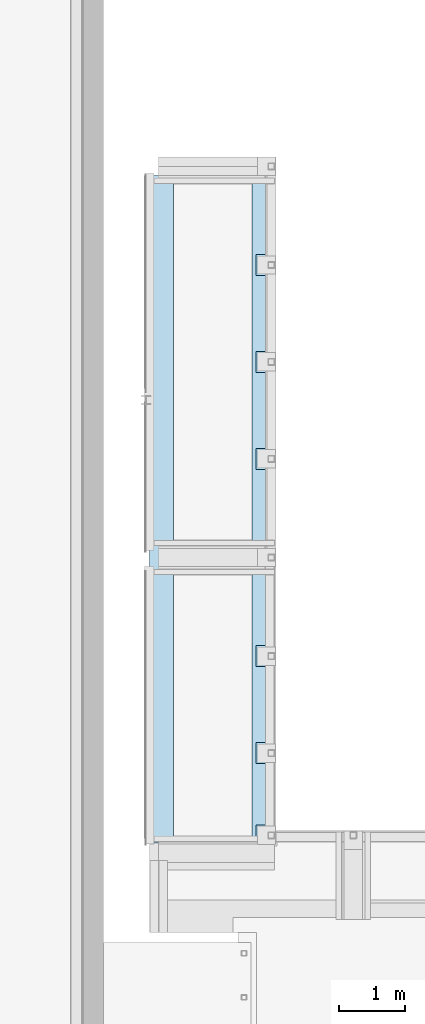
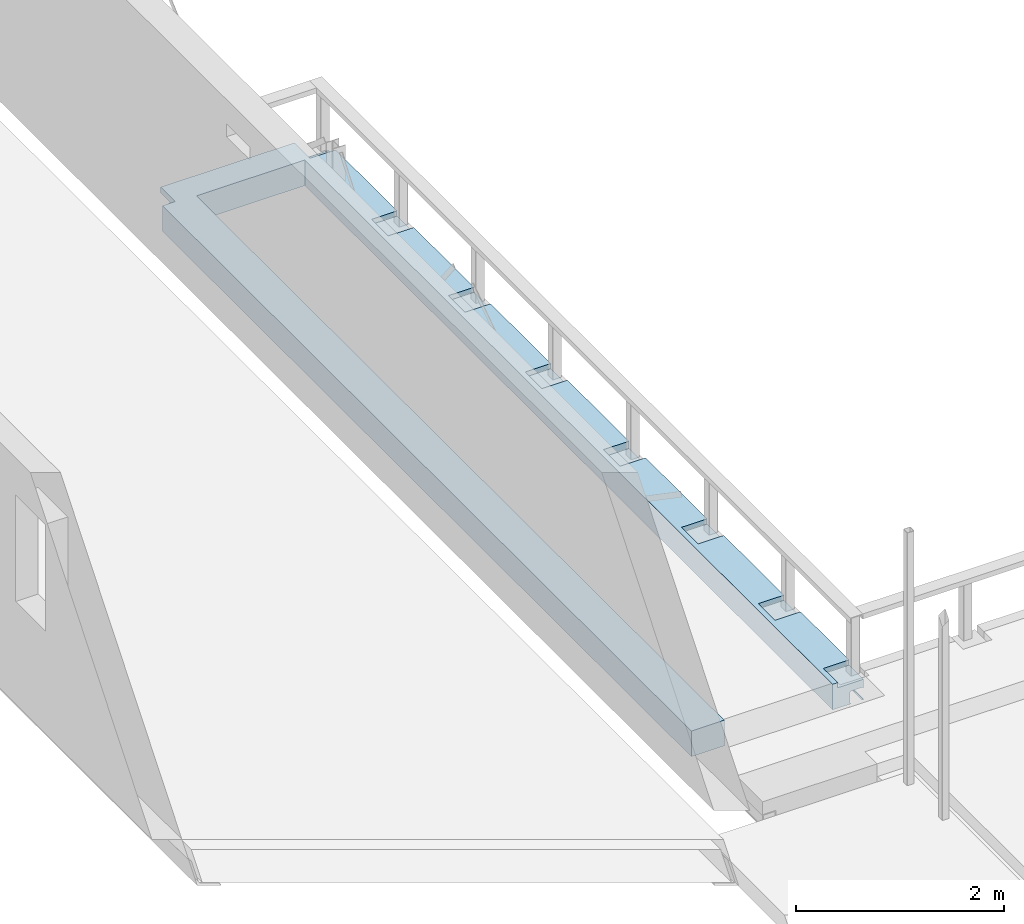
# One storey, part 58 of 68: 1 slab.
"""IFC2X3 building model written with IfcOpenShell, lengths in millimetres."""

from ifc_helpers import new_model, entity, si_unit, converted_unit, derived_unit, direction, frame, origin, place, context, subcontext, project, spatial, faceted_brep, material, type_object, element, save


model = new_model("IFC2X3")

# Units and contexts
model_context = context("Model", 3, precision=0.01, world=origin(), true_north=direction((6.12303176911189e-17, 1.0)))
body_context = subcontext(model_context, "Body", "Model", "MODEL_VIEW")
ifc_project = project(units=[si_unit("LENGTHUNIT", "METRE", prefix="MILLI"), si_unit("AREAUNIT", "SQUARE_METRE", prefix="MILLI"), si_unit("VOLUMEUNIT", "CUBIC_METRE"), converted_unit("PLANEANGLEUNIT", "DEGREE", entity("IfcRatioMeasure", 0.0174532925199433), si_unit("PLANEANGLEUNIT", "RADIAN"), dimensions=[0, 0, 0, 0, 0, 0, 0]), si_unit("MASSUNIT", "GRAM", prefix="KILO"), derived_unit("MASSDENSITYUNIT", [(si_unit("MASSUNIT", "GRAM", prefix="KILO"), 1), (si_unit("LENGTHUNIT", "METRE"), -3)]), derived_unit("MOMENTOFINERTIAUNIT", [(si_unit("LENGTHUNIT", "METRE"), 4)]), si_unit("TIMEUNIT", "SECOND"), si_unit("FREQUENCYUNIT", "HERTZ"), si_unit("THERMODYNAMICTEMPERATUREUNIT", "DEGREE_CELSIUS"), derived_unit("THERMALTRANSMITTANCEUNIT", [(si_unit("MASSUNIT", "GRAM", prefix="KILO"), 1), (si_unit("THERMODYNAMICTEMPERATUREUNIT", "KELVIN"), -1), (si_unit("TIMEUNIT", "SECOND"), -3)]), derived_unit("VOLUMETRICFLOWRATEUNIT", [(si_unit("LENGTHUNIT", "METRE"), 3), (si_unit("TIMEUNIT", "SECOND"), -1)]), si_unit("ELECTRICCURRENTUNIT", "AMPERE"), si_unit("ELECTRICVOLTAGEUNIT", "VOLT"), si_unit("POWERUNIT", "WATT"), si_unit("FORCEUNIT", "NEWTON", prefix="KILO"), si_unit("ILLUMINANCEUNIT", "LUX"), si_unit("LUMINOUSFLUXUNIT", "LUMEN"), si_unit("LUMINOUSINTENSITYUNIT", "CANDELA"), derived_unit("USERDEFINED", [(si_unit("MASSUNIT", "GRAM", prefix="KILO"), -1), (si_unit("LENGTHUNIT", "METRE"), -2), (si_unit("TIMEUNIT", "SECOND"), 3), (si_unit("LUMINOUSFLUXUNIT", "LUMEN"), 1)]), derived_unit("LINEARVELOCITYUNIT", [(si_unit("LENGTHUNIT", "METRE"), 1), (si_unit("TIMEUNIT", "SECOND"), -1)]), si_unit("PRESSUREUNIT", "PASCAL"), derived_unit("USERDEFINED", [(si_unit("LENGTHUNIT", "METRE"), -2), (si_unit("MASSUNIT", "GRAM", prefix="KILO"), 1), (si_unit("TIMEUNIT", "SECOND"), -2)]), derived_unit("LINEARFORCEUNIT", [(si_unit("MASSUNIT", "GRAM", prefix="KILO"), 1), (si_unit("LENGTHUNIT", "METRE"), 1), (si_unit("TIMEUNIT", "SECOND"), -2), (si_unit("LENGTHUNIT", "METRE"), -1)]), derived_unit("PLANARFORCEUNIT", [(si_unit("MASSUNIT", "GRAM", prefix="KILO"), 1), (si_unit("LENGTHUNIT", "METRE"), 1), (si_unit("TIMEUNIT", "SECOND"), -2), (si_unit("LENGTHUNIT", "METRE"), -2)])], contexts=[model_context])

# Site, building, storey
site_placement = place(None, origin())
site = spatial("IfcSite", under=ifc_project, at=site_placement, Name="Theater aan de Parade", CompositionType="ELEMENT")
building_placement = place(site_placement, origin())
building = spatial("IfcBuilding", under=site, at=building_placement, Name="Theater aan de Parade", CompositionType="ELEMENT")
storey_placement = place(building_placement, frame((0.0, 0.0, 8750.0)))
storey = spatial("IfcBuildingStorey", under=building, at=storey_placement, Name="02 tweede verdieping", CompositionType="ELEMENT", Elevation=8750.0)

# Slab
ifc_material = material(Name="00_PBT_MAT_beton t.p.g._C30/37")
slab_type = type_object("IfcSlabType", Name="Floor:28_PBT_FL_beton t.p.g._d=300_rand staalplaat-betonvloer_C30/37", PredefinedType="FLOOR")
slab_placement = place(storey_placement, origin())
element("IfcSlab", 1, at=slab_placement, inside=storey, type_object=slab_type, material=ifc_material, Name="Floor:28_PBT_FL_beton t.p.g._d=300_rand staalplaat-betonvloer_C30/37", ObjectType="Floor:28_PBT_FL_beton t.p.g._d=300_rand staalplaat-betonvloer_C30/37", PredefinedType="FLOOR", context=body_context, shape_type="Brep", body=[
    faceted_brep([(17960.8570032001, 19228.2922985, -60.0), (17675.8570032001, 19228.2922985, -60.0), (17675.8570032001, 19228.2922985, 0.0), (17618.8570032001, 19228.2922985, 0.0), (17618.8570032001, 19228.2922985, -300.0), (17825.8570032, 19228.2922985, -300.0), (17823.4284504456, 19228.2922985, -298.994060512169), (17820.5537023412, 19228.2922985, -297.803300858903), (17817.9020519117, 19228.2922985, -296.704951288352), (17815.2504014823, 19228.2922985, -295.60660171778), (17814.1520519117, 19228.2922985, -292.954951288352), (17813.0537023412, 19228.2922985, -290.303300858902), (17811.8629426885, 19228.2922985, -287.428552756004), (17810.8570032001, 19228.2922985, -285.0), (17810.8570032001, 19228.2922985, -165.0), (17811.8629426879, 19228.2922985, -162.571447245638), (17812.8688821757, 19228.2922985, -160.142894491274), (17814.059641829, 19228.2922985, -157.268146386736), (17815.2504014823, 19228.2922985, -154.393398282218), (17817.9020519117, 19228.2922985, -153.295048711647), (17820.5537023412, 19228.2922985, -152.196699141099), (17823.2053527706, 19228.2922985, -151.098349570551), (17825.8570032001, 19228.2922985, -150.0), (17945.8570032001, 19228.2922985, -150.0), (17948.2855559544, 19228.2922985, -151.0059394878), (17950.7141087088, 19228.2922985, -152.011878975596), (17953.5888568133, 19228.2922985, -153.202638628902), (17956.4636049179, 19228.2922985, -154.393398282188), (17957.6543645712, 19228.2922985, -157.268146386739), (17958.8451242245, 19228.2922985, -160.142894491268), (17959.8510637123, 19228.2922985, -162.571447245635), (17960.8570032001, 19228.2922985, -165.0), (16053.8570032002, 19228.2922985, -300.0), (16418.8570032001, 19228.2922985, -300.0), (16418.8570032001, 19228.2922985, 0.0), (16053.8570032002, 19228.2922985, 0.0), (17960.8570032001, 19228.2922985, -300.0), (17960.8570032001, 19228.2922985, -285.0), (17959.8510637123, 19228.2922985, -287.428552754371), (17958.8451242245, 19228.2922985, -289.857105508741), (17957.6543645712, 19228.2922985, -292.731853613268), (17956.4636049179, 19228.2922985, -295.606601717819), (17953.5888568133, 19228.2922985, -296.797361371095), (17950.7141087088, 19228.2922985, -297.988121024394), (17948.2855559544, 19228.2922985, -298.994060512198), (17945.8570032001, 19228.2922985, -300.0), (16193.8570032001, 29658.2922984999, -70.0), (16193.8570032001, 29378.2922984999, -70.0), (16193.8570032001, 29378.2922984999, 0.0), (16193.8570032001, 29658.2922984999, 0.0), (16193.8570032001, 29378.2922984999, -300.0), (16193.8570032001, 29378.2922984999, -88.0), (16193.8570032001, 29489.0422984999, -88.0), (16193.8570032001, 29494.8836085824, -90.4195498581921), (16193.8570032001, 29497.5275798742, -91.514718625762), (16193.8570032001, 29501.7702205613, -93.2720779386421), (16193.8570032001, 29506.0128612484, -95.0294372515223), (16193.8570032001, 29507.7702205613, -99.2720779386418), (16193.8570032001, 29509.5275798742, -103.514718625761), (16193.8570032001, 29511.284939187, -107.757359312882), (16193.8570032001, 29513.0422984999, -112.0), (16193.8570032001, 29513.0422984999, -300.0), (17960.8570032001, 19266.30672969, -300.0), (17945.8570032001, 19243.2922985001, -300.0), (17945.8570032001, 19278.2922985, -300.0), (17960.8570032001, 19393.308446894, -300.0), (17945.8570032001, 23428.2922984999, -300.0), (17945.8570032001, 23708.2922984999, -300.0), (17825.8570032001, 23428.2922984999, -300.0), (17825.8570032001, 23708.2922984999, -300.0), (17618.8570032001, 19243.2922985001, -300.0), (17825.8570032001, 19278.2922985, -300.0), (17825.8570032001, 19243.2922985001, -300.0), (17618.8570032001, 29358.2922984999, -300.0), (17825.8570032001, 29378.2922984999, -300.0), (17960.8570032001, 29513.0422984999, -300.0), (16418.8570032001, 29358.2922984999, -300.0), (16053.8570032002, 29378.2922984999, -300.0), (16418.8570032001, 19243.2922985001, -300.0), (17945.8570032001, 29378.2922984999, -300.0), (17675.8570032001, 20753.2922985, 0.0), (17960.8570032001, 20753.2922985, 0.0), (17960.8570032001, 21908.2922985, 0.0), (17675.8570032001, 21908.2922985, 0.0), (17675.8570032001, 22228.2922985, 0.0), (17960.8570032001, 22228.2922985, 0.0), (17960.8570032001, 23408.2922984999, 0.0), (17675.8570032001, 23408.2922985, 0.0), (17675.8570032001, 23728.2922985, 0.0), (17960.8570032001, 23728.2922984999, 0.0), (17960.8570032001, 24908.2922984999, 0.0), (17675.8570032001, 24908.2922985, 0.0), (17675.8570032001, 25228.2922985, 0.0), (17960.8570032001, 25228.2922984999, 0.0), (17960.8570032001, 26383.2922984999, 0.0), (17675.8570032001, 26383.2922985, 0.0), (17675.8570032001, 26703.2922985, 0.0), (17960.8570032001, 26703.2922984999, 0.0), (17960.8570032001, 27858.2922984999, 0.0), (17675.8570032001, 27858.2922984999, 0.0), (17675.8570032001, 28178.2922985, 0.0), (17960.8570032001, 28178.2922984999, 0.0), (17960.8570032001, 29358.2922984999, 0.0), (17675.8570032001, 29358.2922984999, 0.0), (17675.8570032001, 29658.2922984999, 0.0), (16053.8570032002, 29378.2922984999, 0.0), (16418.8570032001, 19243.2922985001, 0.0), (16418.8570032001, 29358.2922984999, 0.0), (17618.8570032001, 29358.2922984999, 0.0), (17618.8570032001, 19243.2922985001, 0.0), (17675.8570032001, 19503.308446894, 0.0), (17960.8570032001, 19503.308446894, 0.0), (17960.8570032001, 20433.2922985, 0.0), (17675.8570032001, 20433.2922985, 0.0), (17675.8570032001, 29658.2922984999, -70.0), (17960.8570032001, 29378.2922984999, -285.0), (17960.8570032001, 29378.2922984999, -165.0), (17960.8570032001, 23708.2922985, -285.0), (17960.8570032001, 23428.2922984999, -285.0), (17960.8570032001, 23428.2922984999, -165.0), (17960.8570032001, 23708.2922984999, -165.0), (17960.8570032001, 23728.2922984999, -85.0), (17960.8570032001, 24908.2922984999, -60.0), (17960.8570032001, 25228.2922984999, -60.0), (17960.8570032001, 26703.2922984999, -60.0), (17960.8570032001, 26383.2922984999, -60.0), (17960.8570032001, 23408.2922984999, -85.0), (17960.8570032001, 22228.2922985, -60.0), (17960.8570032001, 21908.2922985, -60.0), (17960.8570032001, 19278.2922985, -165.0), (17960.8570032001, 20753.2922985, -60.0), (17960.8570032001, 20433.2922985, -60.0), (17960.8570032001, 19503.308446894, -60.0), (17960.8570032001, 19393.308446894, -60.0), (17960.8570032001, 19266.30672969, -60.0), (17960.8570032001, 19266.30672969, -165.0), (17960.8570032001, 19243.2922985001, -165.0), (17960.8570032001, 19278.2922985, -285.0), (17960.8570032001, 19266.30672969, -285.0), (17960.8570032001, 19243.2922985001, -285.0), (17960.8570032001, 29513.0422984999, -112.0), (17960.8570032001, 29489.0422984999, -88.0), (17960.8570032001, 29494.8836085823, -90.4195498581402), (17960.8570032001, 29500.7249186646, -92.8390997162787), (17960.8570032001, 29511.284939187, -107.757359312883), (17960.8570032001, 29509.5275798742, -103.514718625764), (17960.8570032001, 29507.7702205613, -99.272077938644), (17960.8570032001, 29506.0128612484, -95.0294372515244), (17960.8570032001, 29378.2922984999, -88.0), (17960.8570032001, 29358.2922984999, -85.0), (17960.8570032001, 29378.2922984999, -85.0), (17960.8570032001, 28178.2922984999, -60.0), (17960.8570032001, 27858.2922984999, -60.0), (17818.1251495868, 23428.2922984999, -296.797361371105), (17820.9998976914, 23428.2922985, -297.988121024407), (17823.4284504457, 23428.2922984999, -298.994060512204), (17948.5086536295, 23428.2922984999, -298.90165042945), (17951.160304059, 23428.2922984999, -297.8033008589), (17953.8119544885, 23428.2922984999, -296.70495128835), (17956.4636049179, 23428.2922984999, -295.6066017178), (17957.5619544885, 23428.2922984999, -292.95495128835), (17958.660304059, 23428.2922984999, -290.3033008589), (17959.7586536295, 23428.2922984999, -287.651650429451), (17959.7586536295, 23428.2922984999, -162.348349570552), (17958.660304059, 23428.2922985, -159.696699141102), (17957.5619544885, 23428.2922984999, -157.045048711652), (17956.4636049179, 23428.2922984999, -154.393398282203), (17953.8119544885, 23428.2922984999, -153.295048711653), (17951.160304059, 23428.2922984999, -152.196699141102), (17948.5086536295, 23428.2922984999, -151.098349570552), (17945.8570032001, 23428.2922984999, -150.0), (17825.8570032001, 23428.2922984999, -150.0), (17823.4284504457, 23428.2922984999, -151.005939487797), (17820.5537023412, 23428.2922985, -152.196699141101), (17817.9020519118, 23428.2922984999, -153.295048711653), (17815.2504014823, 23428.2922984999, -154.393398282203), (17814.1520519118, 23428.2922984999, -157.045048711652), (17813.0537023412, 23428.2922984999, -159.696699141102), (17811.9553527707, 23428.2922984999, -162.348349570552), (17810.8570032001, 23428.2922984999, -165.0), (17810.8570032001, 23428.2922984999, -285.0), (17811.9553527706, 23428.2922984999, -287.651650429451), (17813.0537023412, 23428.2922984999, -290.3033008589), (17814.1520519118, 23428.2922985, -292.95495128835), (17815.2504014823, 23428.2922984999, -295.6066017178), (17947.8050447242, 23708.2922984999, -299.193094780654), (17951.160304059, 23708.2922984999, -297.8033008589), (17953.8119544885, 23708.2922984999, -296.70495128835), (17956.4636049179, 23708.2922984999, -295.6066017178), (17956.4636049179, 29378.2922984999, -295.6066017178), (17953.8119544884, 29378.2922984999, -296.70495128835), (17951.160304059, 29378.2922984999, -297.8033008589), (17948.5086536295, 29378.2922984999, -298.901650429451), (17957.5619544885, 23708.2922984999, -292.954951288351), (17958.660304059, 23708.2922984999, -290.3033008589), (17959.7586536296, 23708.2922984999, -287.65165042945), (17959.2431927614, 29378.2922984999, -288.896083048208), (17957.8533988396, 29378.2922984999, -292.251342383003), (17810.8570032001, 29378.2922984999, -285.0), (17810.8570032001, 29378.2922984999, -165.0), (17810.8570032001, 23708.2922984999, -165.0), (17810.8570032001, 23708.2922984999, -285.0), (17811.9553527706, 29378.2922984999, -287.651650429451), (17811.9553527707, 23708.2922984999, -287.651650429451), (17813.0537023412, 23708.2922984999, -290.303300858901), (17814.1520519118, 23708.2922984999, -292.95495128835), (17815.2504014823, 23708.2922984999, -295.6066017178), (17815.2504014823, 29378.2922984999, -295.6066017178), (17814.1520519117, 29378.2922984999, -292.95495128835), (17813.0537023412, 29378.2922984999, -290.3033008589), (17818.605660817, 29378.2922984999, -296.996395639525), (17817.9020519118, 23708.2922984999, -296.70495128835), (17820.5537023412, 23708.2922984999, -297.8033008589), (17823.2053527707, 23708.2922984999, -298.901650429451), (17821.9609201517, 29378.2922984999, -298.386189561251), (17960.0500979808, 23708.2922984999, -163.051958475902), (17958.660304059, 23708.2922984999, -159.696699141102), (17957.5619544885, 23708.2922984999, -157.045048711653), (17956.4636049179, 23708.2922984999, -154.393398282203), (17956.4636049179, 29378.2922984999, -154.393398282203), (17957.5619544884, 29378.2922984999, -157.045048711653), (17958.660304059, 29378.2922984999, -159.696699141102), (17959.7586536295, 29378.2922984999, -162.348349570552), (17953.8119544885, 23708.2922984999, -153.295048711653), (17951.160304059, 23708.2922984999, -152.196699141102), (17948.5086536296, 23708.2922984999, -151.098349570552), (17945.8570032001, 23708.2922984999, -150.0), (17945.8570032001, 29378.2922984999, -150.0), (17949.7530862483, 29378.2922984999, -151.613810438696), (17953.1083455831, 29378.2922984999, -153.00360436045), (17825.8570032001, 23708.2922984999, -150.0), (17825.8570032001, 29378.2922984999, -150.0), (17823.908961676, 23708.2922984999, -150.806905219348), (17820.5537023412, 23708.2922984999, -152.196699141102), (17817.9020519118, 23708.2922984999, -153.295048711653), (17815.2504014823, 23708.2922984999, -154.393398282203), (17815.2504014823, 29378.2922984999, -154.393398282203), (17817.9020519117, 29378.2922984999, -153.295048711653), (17820.5537023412, 29378.2922984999, -152.196699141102), (17823.2053527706, 29378.2922984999, -151.098349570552), (17814.1520519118, 23708.2922984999, -157.045048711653), (17813.0537023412, 23708.2922984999, -159.696699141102), (17811.9553527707, 23708.2922984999, -162.348349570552), (17812.4708136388, 29378.2922984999, -161.103916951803), (17813.8606075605, 29378.2922984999, -157.748657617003), (17675.8570032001, 29378.2922984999, -70.0), (17675.8570032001, 23728.2922985, -85.0), (17675.8570032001, 23408.2922985, -85.0), (17675.8570032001, 29358.2922984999, -85.0), (17675.8570032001, 29378.2922984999, -85.0), (17675.8570032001, 25228.2922985, -60.0), (17675.8570032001, 24908.2922985, -60.0), (17675.8570032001, 28178.2922985, -60.0), (17675.8570032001, 27858.2922984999, -60.0), (17675.8570032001, 26703.2922985, -60.0), (17675.8570032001, 26383.2922985, -60.0), (17675.8570032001, 22228.2922985, -60.0), (17675.8570032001, 21908.2922985, -60.0), (17675.8570032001, 20753.2922985, -60.0), (17675.8570032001, 20433.2922985, -60.0), (17675.8570032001, 19503.308446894, -60.0)], [[[0, 1, 2, 3, 4, 5, 6, 7, 8, 9, 10, 11, 12, 13, 14, 15, 16, 17, 18, 19, 20, 21, 22, 23, 24, 25, 26, 27, 28, 29, 30, 31]], [[32, 33, 34, 35]], [[36, 37, 38, 39, 40, 41, 42, 43, 44, 45]], [[46, 47, 48, 49]], [[50, 51, 52, 53, 54, 55, 56, 57, 58, 59, 60, 61]], [[62, 36, 63]], [[62, 63, 64]], [[64, 65, 62]], [[63, 36, 45]], [[64, 66, 65]], [[67, 65, 66]], [[67, 66, 68]], [[69, 67, 68]], [[70, 69, 68]], [[70, 68, 71]], [[71, 72, 70]], [[70, 72, 4]], [[72, 5, 4]], [[69, 70, 73]], [[69, 73, 74]], [[73, 75, 74]], [[73, 61, 75]], [[76, 61, 73]], [[76, 50, 61]], [[50, 76, 77]], [[32, 77, 76]], [[76, 78, 32]], [[78, 33, 32]], [[67, 75, 65]], [[79, 75, 67]], [[75, 79, 74]], [[80, 81, 82, 83, 84, 85, 86, 87, 88, 89, 90, 91, 92, 93, 94, 95, 96, 97, 98, 99, 100, 101, 102, 103, 104, 49, 48, 105, 35, 34, 106, 107, 108, 109, 3, 2, 110, 111, 112, 113]], [[77, 32, 35, 105]], [[114, 46, 49, 104]], [[78, 76, 107, 106, 34, 33]], [[70, 4, 3, 109, 108, 73]], [[115, 75, 116]], [[75, 115, 117]], [[75, 117, 65]], [[65, 117, 118]], [[119, 118, 117]], [[117, 120, 119]], [[120, 121, 119]], [[121, 120, 122]], [[123, 122, 120]], [[124, 120, 116]], [[125, 120, 124]], [[120, 125, 123]], [[125, 93, 123]], [[121, 122, 89]], [[90, 89, 122]], [[126, 119, 121]], [[127, 119, 126]], [[126, 86, 127]], [[85, 127, 86]], [[127, 128, 119]], [[128, 129, 119]], [[130, 129, 128]], [[130, 128, 82]], [[82, 81, 130]], [[131, 129, 130]], [[132, 129, 131]], [[132, 131, 112]], [[112, 111, 132]], [[132, 133, 129]], [[133, 134, 129]], [[135, 129, 134]], [[136, 135, 134]], [[0, 136, 134]], [[31, 136, 0]], [[65, 118, 137]], [[62, 65, 137]], [[62, 137, 138]], [[62, 138, 139]], [[36, 62, 139]], [[139, 37, 36]], [[116, 75, 140]], [[116, 140, 141]], [[140, 142, 141]], [[140, 143, 142]], [[143, 140, 144]], [[143, 144, 145]], [[143, 145, 146]], [[143, 146, 147]], [[116, 141, 148]], [[148, 149, 116]], [[148, 150, 149]], [[116, 149, 151]], [[151, 149, 102]], [[151, 102, 101]], [[116, 151, 152]], [[97, 124, 152]], [[124, 116, 152]], [[98, 97, 152]], [[94, 93, 125]], [[153, 154, 155, 68, 66, 156, 157, 158, 159, 160, 161, 162, 118, 119, 163, 164, 165, 166, 167, 168, 169, 170, 171, 172, 173, 174, 175, 176, 177, 178, 179, 180, 181, 182, 183, 184]], [[43, 42, 41, 159, 158, 157, 156, 66, 64, 63, 45, 44]], [[79, 67, 185, 186, 187, 188, 189, 190, 191, 192]], [[138, 137, 118, 162, 161, 160, 159, 41, 40, 39, 38, 37, 139]], [[193, 194, 195, 117, 115, 196, 197, 189, 188]], [[180, 179, 14, 13]], [[198, 199, 200, 201]], [[182, 181, 180, 13, 12, 11, 10, 9, 184, 183]], [[202, 198, 201, 203, 204, 205, 206, 207, 208, 209]], [[184, 9, 8, 7, 6, 5, 72, 71, 68, 155, 154, 153]], [[210, 207, 206, 211, 212, 213, 69, 74, 214]], [[30, 29, 28, 27, 166, 165, 164, 163, 119, 129, 135, 136, 31]], [[116, 120, 215, 216, 217, 218, 219, 220, 221, 222]], [[25, 24, 23, 170, 169, 168, 167, 166, 27, 26]], [[223, 224, 225, 226, 227, 228, 229, 219, 218]], [[171, 170, 23, 22]], [[227, 226, 230, 231]], [[20, 19, 18, 175, 174, 173, 172, 171, 22, 21]], [[231, 230, 232, 233, 234, 235, 236, 237, 238, 239]], [[175, 18, 17, 16, 15, 14, 179, 178, 177, 176]], [[240, 241, 242, 200, 199, 243, 244, 236, 235]], [[76, 73, 108, 107]], [[52, 51, 148, 141]], [[142, 143, 147, 56, 55, 54, 53, 52, 141]], [[56, 147, 146, 145, 144, 140, 60, 59, 58, 57]], [[60, 140, 75, 61]], [[46, 114, 245, 47]], [[201, 200, 242, 241, 240, 235, 234, 233, 232, 230, 226, 225, 224, 223, 218, 217, 216, 215, 120, 117, 195, 194, 193, 188, 187, 186, 185, 67, 69, 213, 212, 211, 206, 205, 204, 203]], [[210, 214, 74, 79, 192, 191, 190, 189, 197, 196, 115, 116, 222, 221, 220, 219, 229, 228, 227, 231, 239, 238, 237, 236, 244, 243, 199, 198, 202, 209, 208, 207]], [[246, 247, 126, 121]], [[248, 149, 150, 249]], [[126, 247, 87, 86]], [[246, 121, 89, 88]], [[246, 88, 87, 247]], [[250, 92, 91, 251]], [[245, 114, 104, 103, 248, 249]], [[252, 100, 99, 253]], [[254, 96, 95, 255]], [[256, 84, 83, 257]], [[258, 80, 113, 259]], [[1, 260, 110, 2]], [[251, 122, 123, 250]], [[253, 152, 151, 252]], [[255, 125, 124, 254]], [[257, 128, 127, 256]], [[259, 131, 130, 258]], [[1, 0, 134, 133, 132, 260]], [[251, 91, 90, 122]], [[250, 123, 93, 92]], [[248, 103, 102, 149]], [[253, 99, 98, 152]], [[252, 151, 101, 100]], [[255, 95, 94, 125]], [[124, 97, 96, 254]], [[257, 83, 82, 128]], [[127, 85, 84, 256]], [[259, 113, 112, 131]], [[258, 130, 81, 80]], [[260, 132, 111, 110]], [[50, 77, 105, 48, 47, 245, 249, 150, 148, 51]]]),
])

save(model, "model.ifc")
